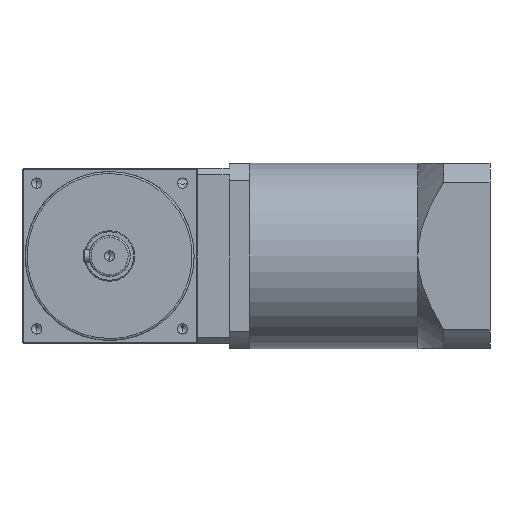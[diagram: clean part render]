
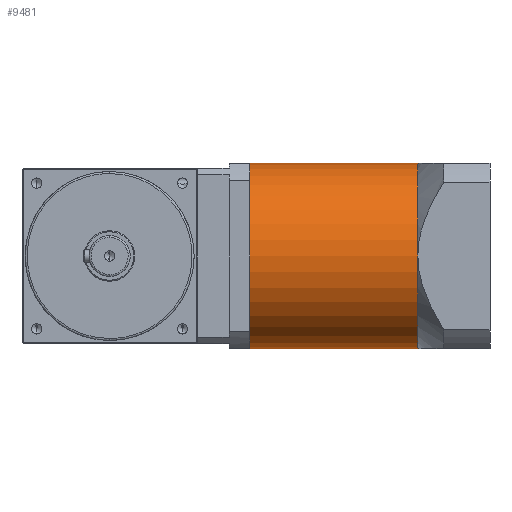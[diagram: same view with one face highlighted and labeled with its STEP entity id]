
A CAD part, left-side view. The second image highlights one B-rep face of the part: STEP entity #9481.
In plain terms, the highlighted cylindrical face has radius 45 mm (diameter 90 mm), a partial arc.
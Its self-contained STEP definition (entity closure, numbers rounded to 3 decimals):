
#44 = ORIENTED_EDGE ( 'NONE', *, *, #6347, .T. ) ;
#135 = DIRECTION ( 'NONE',  ( 0., 0., 1. ) ) ;
#472 = CARTESIAN_POINT ( 'NONE',  ( 0., -149.5, -45. ) ) ;
#635 = CIRCLE ( 'NONE', #7059, 45. ) ;
#714 = CARTESIAN_POINT ( 'NONE',  ( 0., -68., 0. ) ) ;
#1057 = CARTESIAN_POINT ( 'NONE',  ( 0., -68., -45. ) ) ;
#1131 = CARTESIAN_POINT ( 'NONE',  ( 0., -149.5, -45. ) ) ;
#1145 = DIRECTION ( 'NONE',  ( 0., 1., 0. ) ) ;
#1453 = CARTESIAN_POINT ( 'NONE',  ( -45., -149.5, 0. ) ) ;
#1515 = DIRECTION ( 'NONE',  ( 0., 0., 1. ) ) ;
#1550 = LINE ( 'NONE', #2063, #2133 ) ;
#2015 = ORIENTED_EDGE ( 'NONE', *, *, #3828, .T. ) ;
#2018 = DIRECTION ( 'NONE',  ( 0., 1., 0. ) ) ;
#2028 = VERTEX_POINT ( 'NONE', #2565 ) ;
#2063 = CARTESIAN_POINT ( 'NONE',  ( 0., -149.5, 45. ) ) ;
#2133 = VECTOR ( 'NONE', #2018, 1000. ) ;
#2251 = ORIENTED_EDGE ( 'NONE', *, *, #3842, .T. ) ;
#2261 = DIRECTION ( 'NONE',  ( 0., -1., 0. ) ) ;
#2565 = CARTESIAN_POINT ( 'NONE',  ( 0., -68., 45. ) ) ;
#2872 = VERTEX_POINT ( 'NONE', #4456 ) ;
#3539 = VERTEX_POINT ( 'NONE', #1131 ) ;
#3602 = VECTOR ( 'NONE', #6253, 1000. ) ;
#3661 = LINE ( 'NONE', #472, #3602 ) ;
#3828 = EDGE_CURVE ( 'NONE', #2872, #6432, #7786, .T. ) ;
#3842 = EDGE_CURVE ( 'NONE', #2028, #2872, #7608, .T. ) ;
#3899 = EDGE_CURVE ( 'NONE', #3539, #10101, #7436, .T. ) ;
#4456 = CARTESIAN_POINT ( 'NONE',  ( -45., -68., 0. ) ) ;
#4579 = CARTESIAN_POINT ( 'NONE',  ( 0., -149.5, 45. ) ) ;
#5107 = DIRECTION ( 'NONE',  ( 0., 1., 0. ) ) ;
#5249 = CYLINDRICAL_SURFACE ( 'NONE', #10148, 45. ) ;
#5556 = AXIS2_PLACEMENT_3D ( 'NONE', #6097, #1145, #6940 ) ;
#5570 = VERTEX_POINT ( 'NONE', #4579 ) ;
#6003 = ORIENTED_EDGE ( 'NONE', *, *, #7199, .F. ) ;
#6097 = CARTESIAN_POINT ( 'NONE',  ( 0., -149.5, 0. ) ) ;
#6253 = DIRECTION ( 'NONE',  ( 0., 1., 0. ) ) ;
#6255 = AXIS2_PLACEMENT_3D ( 'NONE', #714, #6484, #1515 ) ;
#6347 = EDGE_CURVE ( 'NONE', #10101, #5570, #635, .T. ) ;
#6432 = VERTEX_POINT ( 'NONE', #1057 ) ;
#6484 = DIRECTION ( 'NONE',  ( 0., -1., 0. ) ) ;
#6940 = DIRECTION ( 'NONE',  ( 0., 0., 1. ) ) ;
#7059 = AXIS2_PLACEMENT_3D ( 'NONE', #10189, #5107, #135 ) ;
#7199 = EDGE_CURVE ( 'NONE', #3539, #6432, #3661, .T. ) ;
#7313 = CARTESIAN_POINT ( 'NONE',  ( 0., -68., 0. ) ) ;
#7314 = AXIS2_PLACEMENT_3D ( 'NONE', #7313, #2261, #8158 ) ;
#7350 = ORIENTED_EDGE ( 'NONE', *, *, #7562, .T. ) ;
#7436 = CIRCLE ( 'NONE', #5556, 45. ) ;
#7562 = EDGE_CURVE ( 'NONE', #5570, #2028, #1550, .T. ) ;
#7608 = CIRCLE ( 'NONE', #6255, 45. ) ;
#7786 = CIRCLE ( 'NONE', #7314, 45. ) ;
#8058 = DIRECTION ( 'NONE',  ( 0., 0., 1. ) ) ;
#8158 = DIRECTION ( 'NONE',  ( 0., 0., 1. ) ) ;
#8827 = ORIENTED_EDGE ( 'NONE', *, *, #3899, .T. ) ;
#9481 = ADVANCED_FACE ( 'NONE', ( #10068 ), #5249, .T. ) ;
#9718 = CARTESIAN_POINT ( 'NONE',  ( 0., -149.5, 0. ) ) ;
#10068 = FACE_OUTER_BOUND ( 'NONE', #10547, .T. ) ;
#10101 = VERTEX_POINT ( 'NONE', #1453 ) ;
#10148 = AXIS2_PLACEMENT_3D ( 'NONE', #9718, #10581, #8058 ) ;
#10189 = CARTESIAN_POINT ( 'NONE',  ( 0., -149.5, 0. ) ) ;
#10547 = EDGE_LOOP ( 'NONE', ( #6003, #8827, #44, #7350, #2251, #2015 ) ) ;
#10581 = DIRECTION ( 'NONE',  ( 0., 1., 0. ) ) ;
